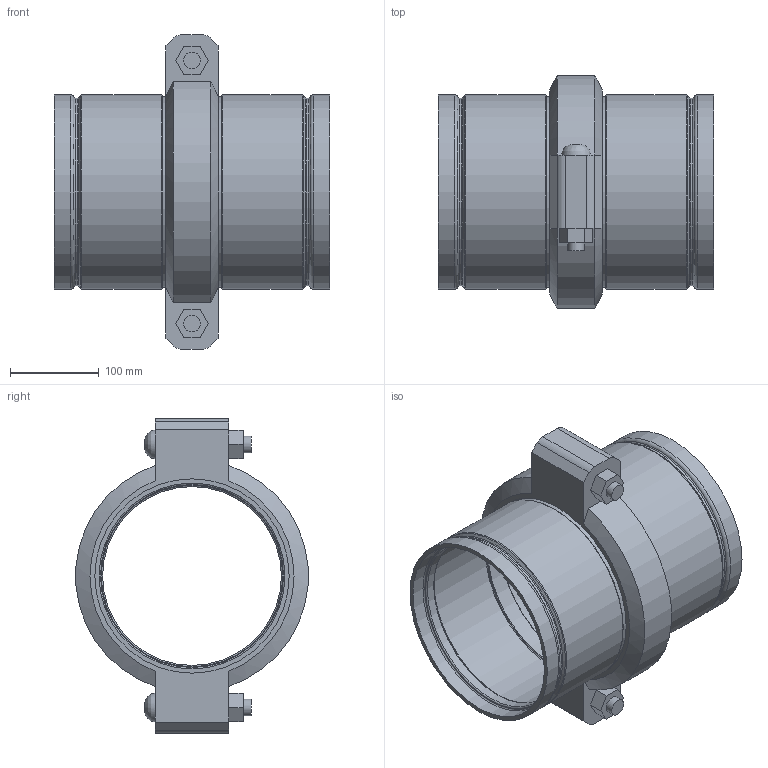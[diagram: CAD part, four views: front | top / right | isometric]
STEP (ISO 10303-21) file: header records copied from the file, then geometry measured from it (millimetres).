
FILE_DESCRIPTION(/* description */ ('VIC STRENGTHIN 100 EXPANSION JOINT 1 COUPLING EXPANDED STYLE E155 (ST1)','CAx-IF Rec.Pracs.---Representation and Presentation of Product Manufacturing Information (PMI)---4.0---2014-10-13'),/* implementation_level */ '2;1');
FILE_NAME(/* name */ 'C:\Users\Vjadhav\AppData\Roaming\Autodesk\ApplicationPlugins\Victaulic.Temp\A475\Victaulic_SS-StrengThin 100_Expansion Joint_Expanded_1 Coupling_Style E155 (ST1)_8 (200).stp',/* time_stamp */ '2021-07-23T19:22:11+06:00',/* author */ ('kkamble'),/* organization */ ('Victaulic'),/* preprocessor_version */ 'ST-DEVELOPER v17.2',/* originating_system */ 'Autodesk Inventor 2019',/* authorisation */ '');
FILE_SCHEMA (('AP242_MANAGED_MODEL_BASED_3D_ENGINEERING_MIM_LF { 1 0 10303 442 1 1 4 }'));
Length unit declared in the file: inch
Products named in the file (3): E155-08.0; E494G-08.0; 075-08.0
Assembly tree (3 placements, depth 2):
  E155-08.0
    E494G-08.0  x2
    075-08.0
Bounding box: 310.39 x 261.72 x 354.84 mm (x, y, z)
Volume: 2411088.2 mm3; surface area: 611451.8 mm2
Topology: 3 solids, 5 shells, 127 faces, 363 edges, 264 vertices
Faces by surface type: plane 50, cylinder 35, torus 32, cone 8, bspline 2
Full cylindrical faces by diameter (mm): 19.05 x4, 21.209 x2, 201.651 x2, 204.851 x2, 209.525 x6, 211.201 x2, 212.725 x1, 214.401 x2, 219.075 x8
Entity records: 3301 total; most frequent: CARTESIAN_POINT 591, DIRECTION 579, ORIENTED_EDGE 496, EDGE_CURVE 248, AXIS2_PLACEMENT_3D 243, VERTEX_POINT 177, CIRCLE 147, EDGE_LOOP 113
